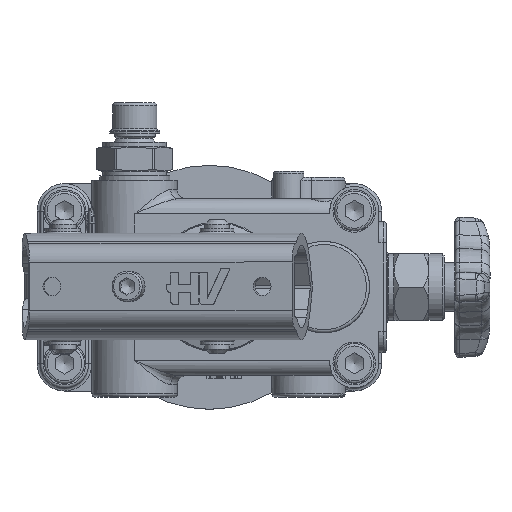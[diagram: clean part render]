
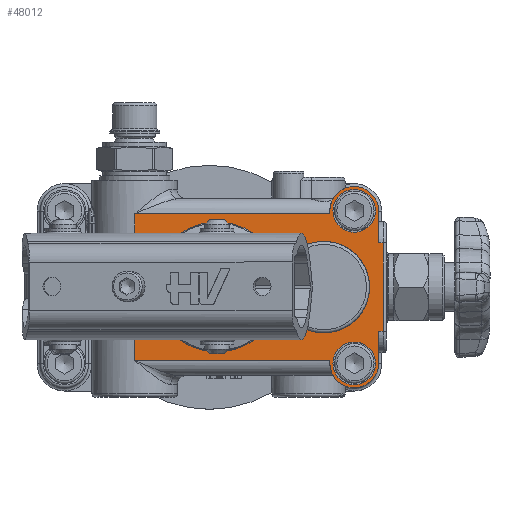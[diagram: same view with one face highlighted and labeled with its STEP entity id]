
A CAD part, top view. The second image highlights one B-rep face of the part: STEP entity #48012.
In plain terms, the highlighted planar face has unit normal (0, 0, 1).
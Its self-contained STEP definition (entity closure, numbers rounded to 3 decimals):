
#46436=CARTESIAN_POINT('',(96.,58.,43.));
#46437=VERTEX_POINT('',#46436);
#46445=CARTESIAN_POINT('',(96.,59.,43.));
#46446=VERTEX_POINT('',#46445);
#46447=CARTESIAN_POINT('',(96.,58.,43.));
#46448=DIRECTION('',(0.0,1.0,0.0));
#46449=VECTOR('',#46448,1.);
#46450=LINE('',#46447,#46449);
#46451=EDGE_CURVE('',#46437,#46446,#46450,.T.);
#46467=CARTESIAN_POINT('',(96.0,10.0,43.));
#46468=VERTEX_POINT('',#46467);
#46478=CARTESIAN_POINT('',(96.0,9.,43.));
#46479=VERTEX_POINT('',#46478);
#46486=CARTESIAN_POINT('',(96.,9.,43.));
#46487=DIRECTION('',(0.0,1.0,0.0));
#46488=VECTOR('',#46487,1.);
#46489=LINE('',#46486,#46488);
#46490=EDGE_CURVE('',#46479,#46468,#46489,.T.);
#46531=CARTESIAN_POINT('',(46.28,21.264,43.));
#46532=VERTEX_POINT('',#46531);
#46533=CARTESIAN_POINT('',(59.,34.0,43.));
#46534=DIRECTION('',(0.0,0.0,1.0));
#46535=DIRECTION('',(0.707,0.708,0.0));
#46536=AXIS2_PLACEMENT_3D('',#46533,#46534,#46535);
#46537=CIRCLE('',#46536,18.);
#46538=EDGE_CURVE('',#46532,#46532,#46537,.T.);
#46697=CARTESIAN_POINT('',(32.,44.122,43.));
#46698=VERTEX_POINT('',#46697);
#46747=CARTESIAN_POINT('',(33.732,41.0,43.));
#46748=VERTEX_POINT('',#46747);
#46756=CARTESIAN_POINT('',(33.732,41.0,43.));
#46757=CARTESIAN_POINT('',(33.732,41.528,43.));
#46758=CARTESIAN_POINT('',(33.438,42.767,43.));
#46759=CARTESIAN_POINT('',(32.582,43.719,43.));
#46760=CARTESIAN_POINT('',(32.,44.122,43.));
#46761=B_SPLINE_CURVE_WITH_KNOTS('',3,(#46756,#46757,#46758,#46759,#46760),.UNSPECIFIED.,.F.,.U.,(4,1,4),(2.696,2.855,3.066),.UNSPECIFIED.);
#46762=EDGE_CURVE('',#46748,#46698,#46761,.T.);
#46774=CARTESIAN_POINT('',(33.732,27.,43.));
#46775=VERTEX_POINT('',#46774);
#46783=CARTESIAN_POINT('',(33.732,27.,43.));
#46784=DIRECTION('',(0.0,1.0,0.0));
#46785=VECTOR('',#46784,14.);
#46786=LINE('',#46783,#46785);
#46787=EDGE_CURVE('',#46775,#46748,#46786,.T.);
#46820=CARTESIAN_POINT('',(32.,23.878,43.));
#46821=VERTEX_POINT('',#46820);
#46829=CARTESIAN_POINT('',(32.,23.878,43.));
#46830=CARTESIAN_POINT('',(32.433,24.178,43.));
#46831=CARTESIAN_POINT('',(33.336,25.067,43.));
#46832=CARTESIAN_POINT('',(33.732,26.29,43.0));
#46833=CARTESIAN_POINT('',(33.732,27.,43.));
#46834=B_SPLINE_CURVE_WITH_KNOTS('',3,(#46829,#46830,#46831,#46832,#46833),.UNSPECIFIED.,.F.,.U.,(4,1,4),(2.696,2.854,3.065),.UNSPECIFIED.);
#46835=EDGE_CURVE('',#46821,#46775,#46834,.T.);
#47544=CARTESIAN_POINT('',(112.0,59.,43.));
#47545=VERTEX_POINT('',#47544);
#47552=CARTESIAN_POINT('',(112.,48.5,43.));
#47553=VERTEX_POINT('',#47552);
#47554=CARTESIAN_POINT('',(112.0,59.,43.));
#47555=DIRECTION('',(0.0,-1.0,0.0));
#47556=VECTOR('',#47555,10.5);
#47557=LINE('',#47554,#47556);
#47558=EDGE_CURVE('',#47545,#47553,#47557,.T.);
#47673=CARTESIAN_POINT('',(112.0,19.5,43.));
#47674=VERTEX_POINT('',#47673);
#47682=CARTESIAN_POINT('',(112.,9.,43.));
#47683=VERTEX_POINT('',#47682);
#47684=CARTESIAN_POINT('',(112.,19.5,43.));
#47685=DIRECTION('',(0.0,-1.0,0.0));
#47686=VECTOR('',#47685,10.5);
#47687=LINE('',#47684,#47686);
#47688=EDGE_CURVE('',#47674,#47683,#47687,.T.);
#47877=CARTESIAN_POINT('',(113.5,48.5,43.));
#47878=VERTEX_POINT('',#47877);
#47888=CARTESIAN_POINT('',(112.,48.5,43.));
#47889=DIRECTION('',(1.0,0.0,0.0));
#47890=VECTOR('',#47889,1.5);
#47891=LINE('',#47888,#47890);
#47892=EDGE_CURVE('',#47553,#47878,#47891,.T.);
#47897=CARTESIAN_POINT('',(104.,34.,43.));
#47898=DIRECTION('',(0.0,0.0,1.0));
#47899=DIRECTION('',(1.0,0.0,0.0));
#47900=AXIS2_PLACEMENT_3D('',#47897,#47898,#47899);
#47901=PLANE('',#47900);
#47902=CARTESIAN_POINT('',(113.5,19.5,43.));
#47903=VERTEX_POINT('',#47902);
#47904=CARTESIAN_POINT('',(113.5,48.5,43.));
#47905=DIRECTION('',(0.0,-1.0,0.0));
#47906=VECTOR('',#47905,29.);
#47907=LINE('',#47904,#47906);
#47908=EDGE_CURVE('',#47878,#47903,#47907,.T.);
#47909=ORIENTED_EDGE('',*,*,#47908,.F.);
#47910=ORIENTED_EDGE('',*,*,#47892,.F.);
#47911=ORIENTED_EDGE('',*,*,#47558,.F.);
#47912=CARTESIAN_POINT('',(104.,59.,43.));
#47913=DIRECTION('',(0.0,0.0,-1.0));
#47914=DIRECTION('',(1.0,0.0,0.0));
#47915=AXIS2_PLACEMENT_3D('',#47912,#47913,#47914);
#47916=CIRCLE('',#47915,8.0);
#47917=EDGE_CURVE('',#46446,#47545,#47916,.T.);
#47918=ORIENTED_EDGE('',*,*,#47917,.F.);
#47919=ORIENTED_EDGE('',*,*,#46451,.F.);
#47920=CARTESIAN_POINT('',(32.,58.,43.));
#47921=VERTEX_POINT('',#47920);
#47922=CARTESIAN_POINT('',(96.,58.,43.));
#47923=DIRECTION('',(-1.0,0.0,0.0));
#47924=VECTOR('',#47923,64.);
#47925=LINE('',#47922,#47924);
#47926=EDGE_CURVE('',#46437,#47921,#47925,.T.);
#47927=ORIENTED_EDGE('',*,*,#47926,.T.);
#47928=CARTESIAN_POINT('',(32.0,44.122,43.0));
#47929=DIRECTION('',(0.0,1.0,0.0));
#47930=VECTOR('',#47929,13.878);
#47931=LINE('',#47928,#47930);
#47932=EDGE_CURVE('',#46698,#47921,#47931,.T.);
#47933=ORIENTED_EDGE('',*,*,#47932,.F.);
#47934=ORIENTED_EDGE('',*,*,#46762,.F.);
#47935=ORIENTED_EDGE('',*,*,#46787,.F.);
#47936=ORIENTED_EDGE('',*,*,#46835,.F.);
#47937=CARTESIAN_POINT('',(32.,10.0,43.));
#47938=VERTEX_POINT('',#47937);
#47939=CARTESIAN_POINT('',(32.0,10.,43.0));
#47940=DIRECTION('',(0.0,1.0,0.0));
#47941=VECTOR('',#47940,13.878);
#47942=LINE('',#47939,#47941);
#47943=EDGE_CURVE('',#47938,#46821,#47942,.T.);
#47944=ORIENTED_EDGE('',*,*,#47943,.F.);
#47945=CARTESIAN_POINT('',(96.0,10.0,43.));
#47946=DIRECTION('',(-1.0,0.0,0.0));
#47947=VECTOR('',#47946,64.);
#47948=LINE('',#47945,#47947);
#47949=EDGE_CURVE('',#46468,#47938,#47948,.T.);
#47950=ORIENTED_EDGE('',*,*,#47949,.F.);
#47951=ORIENTED_EDGE('',*,*,#46490,.F.);
#47952=CARTESIAN_POINT('',(104.0,9.,43.));
#47953=DIRECTION('',(0.0,0.0,-1.0));
#47954=DIRECTION('',(-1.0,0.0,0.0));
#47955=AXIS2_PLACEMENT_3D('',#47952,#47953,#47954);
#47956=CIRCLE('',#47955,8.0);
#47957=EDGE_CURVE('',#47683,#46479,#47956,.T.);
#47958=ORIENTED_EDGE('',*,*,#47957,.F.);
#47959=ORIENTED_EDGE('',*,*,#47688,.F.);
#47960=CARTESIAN_POINT('',(112.0,19.5,43.));
#47961=DIRECTION('',(1.0,0.0,0.0));
#47962=VECTOR('',#47961,1.5);
#47963=LINE('',#47960,#47962);
#47964=EDGE_CURVE('',#47674,#47903,#47963,.T.);
#47965=ORIENTED_EDGE('',*,*,#47964,.T.);
#47966=EDGE_LOOP('',(#47909,#47910,#47911,#47918,#47919,#47927,#47933,#47934,#47935,#47936,#47944,#47950,#47951,#47958,#47959,#47965));
#47967=FACE_OUTER_BOUND('',#47966,.T.);
#47968=CARTESIAN_POINT('',(111.0,9.,43.));
#47969=VERTEX_POINT('',#47968);
#47970=CARTESIAN_POINT('',(104.0,9.,43.));
#47971=DIRECTION('',(0.0,0.0,-1.0));
#47972=DIRECTION('',(1.0,0.0,0.0));
#47973=AXIS2_PLACEMENT_3D('',#47970,#47971,#47972);
#47974=CIRCLE('',#47973,7.);
#47975=EDGE_CURVE('',#47969,#47969,#47974,.T.);
#47976=ORIENTED_EDGE('',*,*,#47975,.T.);
#47977=EDGE_LOOP('',(#47976));
#47978=FACE_BOUND('',#47977,.T.);
#47979=CARTESIAN_POINT('',(111.,59.,43.));
#47980=VERTEX_POINT('',#47979);
#47981=CARTESIAN_POINT('',(104.,59.,43.));
#47982=DIRECTION('',(0.0,0.0,-1.0));
#47983=DIRECTION('',(1.0,0.0,0.0));
#47984=AXIS2_PLACEMENT_3D('',#47981,#47982,#47983);
#47985=CIRCLE('',#47984,7.);
#47986=EDGE_CURVE('',#47980,#47980,#47985,.T.);
#47987=ORIENTED_EDGE('',*,*,#47986,.T.);
#47988=EDGE_LOOP('',(#47987));
#47989=FACE_BOUND('',#47988,.T.);
#47990=CARTESIAN_POINT('',(83.0,44.198,43.));
#47991=VERTEX_POINT('',#47990);
#47992=CARTESIAN_POINT('',(83.0,23.802,43.));
#47993=VERTEX_POINT('',#47992);
#47994=CARTESIAN_POINT('',(94.,34.0,43.));
#47995=DIRECTION('',(0.0,0.0,-1.0));
#47996=DIRECTION('',(-1.0,0.0,0.0));
#47997=AXIS2_PLACEMENT_3D('',#47994,#47995,#47996);
#47998=CIRCLE('',#47997,15.0);
#47999=EDGE_CURVE('',#47991,#47993,#47998,.T.);
#48000=ORIENTED_EDGE('',*,*,#47999,.T.);
#48001=CARTESIAN_POINT('',(83.0,23.802,43.));
#48002=DIRECTION('',(0.0,1.0,0.0));
#48003=VECTOR('',#48002,20.396);
#48004=LINE('',#48001,#48003);
#48005=EDGE_CURVE('',#47993,#47991,#48004,.T.);
#48006=ORIENTED_EDGE('',*,*,#48005,.T.);
#48007=EDGE_LOOP('',(#48000,#48006));
#48008=FACE_BOUND('',#48007,.T.);
#48009=ORIENTED_EDGE('',*,*,#46538,.F.);
#48010=EDGE_LOOP('',(#48009));
#48011=FACE_BOUND('',#48010,.T.);
#48012=ADVANCED_FACE('',(#47967,#47978,#47989,#48008,#48011),#47901,.T.);
